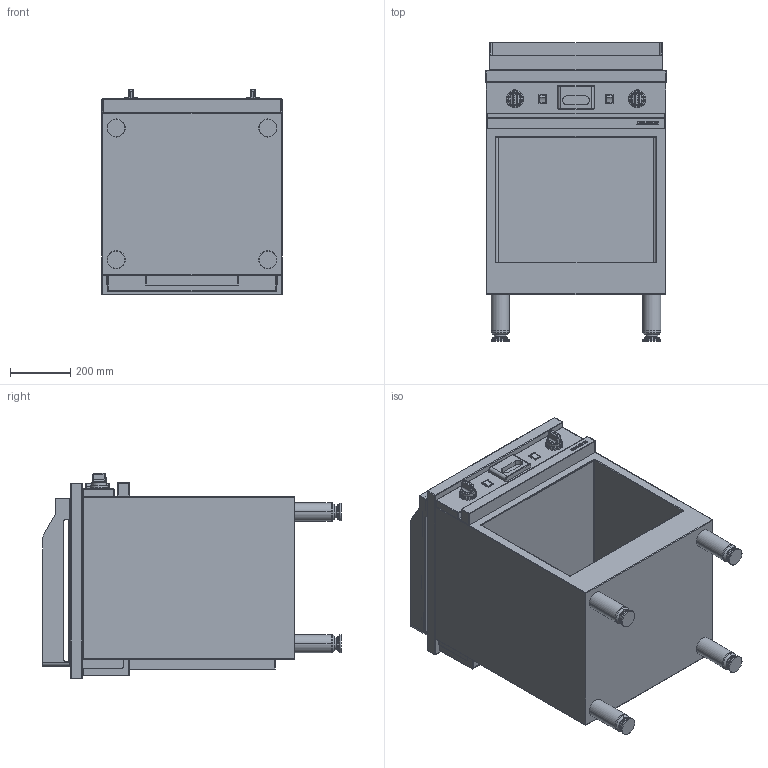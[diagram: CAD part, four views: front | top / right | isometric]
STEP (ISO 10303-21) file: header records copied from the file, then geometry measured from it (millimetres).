
FILE_DESCRIPTION((''),'2;1');
FILE_NAME('CME610SLRC_EXPORT_STEP_ASM','2017-11-22T',('r.avril'),(''),'PRO/ENGINEER BY PARAMETRIC TECHNOLOGY CORPORATION, 2014200','PRO/ENGINEER BY PARAMETRIC TECHNOLOGY CORPORATION, 2014200','');
FILE_SCHEMA(('AP203_CONFIGURATION_CONTROLLED_3D_DESIGN_OF_MECHANICAL_PARTS_AND_ASSEMBLIES_MIM_LF { 1 0 10303 403 2 1 2 }'));
Length unit declared in the file: millimetre
Products named in the file (11): MODULES_AMB_600_EXPORT_STEP; TABLE_610_GRILLADE; TABLE_610_GRILLADE_ASM; TIROIR_GRILLADE_EXPORT_STEP; MANETTE_AMB_EXPORT_STEP; BASCULEUR_AMB_EXPORT_DXF; CEINTURE_PLAQUE_GRILLADE_600; 50288900; 50293100; 65070010_ASM; CME610SLRC_EXPORT_STEP_ASM
Assembly tree (12 placements, depth 3):
  CME610SLRC_EXPORT_STEP_ASM
    MODULES_AMB_600_EXPORT_STEP
    TABLE_610_GRILLADE_ASM
      TABLE_610_GRILLADE
    TIROIR_GRILLADE_EXPORT_STEP
    MANETTE_AMB_EXPORT_STEP  x2
    BASCULEUR_AMB_EXPORT_DXF  x2
    65070010_ASM
      CEINTURE_PLAQUE_GRILLADE_600
      50288900
      50293100
Bounding box: 600 x 992.34 x 682.5 mm (x, y, z)
Volume: 81715046.2 mm3; surface area: 6174036.1 mm2
Topology: 18 solids, 44 shells, 795 faces, 2549 edges, 2066 vertices
Faces by surface type: plane 276, cylinder 261, cone 110, torus 76, sphere 48, bspline 24
Entity records: 34421 total; most frequent: CARTESIAN_POINT 8432, DIRECTION 4250, ORIENTED_EDGE 3800, EDGE_CURVE 2141, AXIS2_PLACEMENT_3D 1511, VERTEX_POINT 1495, VECTOR 1195, LINE 1195
